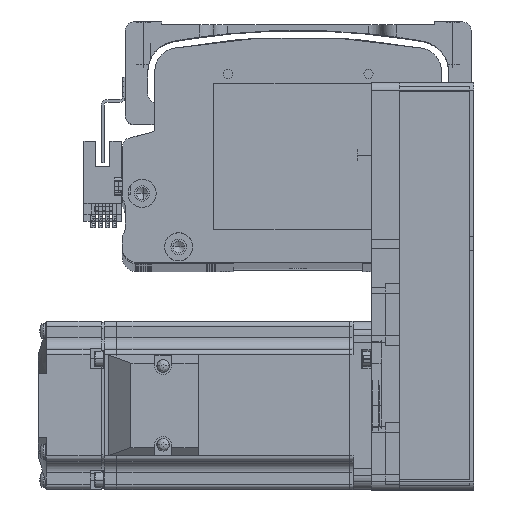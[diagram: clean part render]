
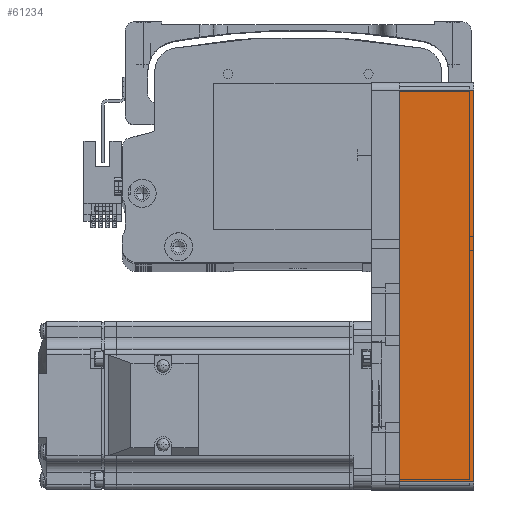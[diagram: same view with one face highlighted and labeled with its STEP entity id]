
A CAD part, top view. The second image highlights one B-rep face of the part: STEP entity #61234.
In plain terms, the highlighted planar face has unit normal (0, 0, 1) as drawn and (0, -1, 0) by its records, which use the part's own axes.
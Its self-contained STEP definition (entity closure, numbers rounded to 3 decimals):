
#3457 = LINE ( 'NONE', #74058, #71544 ) ;
#8334 = ORIENTED_EDGE ( 'NONE', *, *, #68218, .F. ) ;
#11028 = AXIS2_PLACEMENT_3D ( 'NONE', #23783, #71364, #30660 ) ;
#13111 = VERTEX_POINT ( 'NONE', #15380 ) ;
#15380 = CARTESIAN_POINT ( 'NONE',  ( -69.5, -30., 26.5 ) ) ;
#17756 = EDGE_CURVE ( 'NONE', #30488, #26718, #58027, .T. ) ;
#22128 = CARTESIAN_POINT ( 'NONE',  ( 69.5, -30., 26.5 ) ) ;
#22796 = VECTOR ( 'NONE', #74936, 1000. ) ;
#23783 = CARTESIAN_POINT ( 'NONE',  ( 72.5, -30., 26.5 ) ) ;
#25732 = CARTESIAN_POINT ( 'NONE',  ( 69.5, -30., 26.5 ) ) ;
#26718 = VERTEX_POINT ( 'NONE', #25732 ) ;
#27659 = VERTEX_POINT ( 'NONE', #80273 ) ;
#30488 = VERTEX_POINT ( 'NONE', #88091 ) ;
#30660 = DIRECTION ( 'NONE',  ( -1., 0., 0. ) ) ;
#33353 = DIRECTION ( 'NONE',  ( 1., 0., 0. ) ) ;
#39379 = FACE_OUTER_BOUND ( 'NONE', #59045, .T. ) ;
#39473 = VECTOR ( 'NONE', #57391, 1000. ) ;
#39870 = VECTOR ( 'NONE', #56136, 1000. ) ;
#41071 = CARTESIAN_POINT ( 'NONE',  ( -69.5, -30., 26.5 ) ) ;
#42324 = EDGE_CURVE ( 'NONE', #13111, #27659, #61191, .T. ) ;
#50582 = CARTESIAN_POINT ( 'NONE',  ( 72.5, -30., 26.5 ) ) ;
#51248 = EDGE_CURVE ( 'NONE', #27659, #30488, #3457, .T. ) ;
#56136 = DIRECTION ( 'NONE',  ( 0., 0., 1. ) ) ;
#57391 = DIRECTION ( 'NONE',  ( 1., 0., 0. ) ) ;
#57478 = PLANE ( 'NONE',  #11028 ) ;
#57728 = ORIENTED_EDGE ( 'NONE', *, *, #42324, .T. ) ;
#58027 = LINE ( 'NONE', #22128, #39870 ) ;
#59045 = EDGE_LOOP ( 'NONE', ( #68565, #60712, #8334, #57728 ) ) ;
#59775 = LINE ( 'NONE', #50582, #39473 ) ;
#60712 = ORIENTED_EDGE ( 'NONE', *, *, #17756, .T. ) ;
#61191 = LINE ( 'NONE', #41071, #22796 ) ;
#61234 = ADVANCED_FACE ( 'NONE', ( #39379 ), #57478, .F. ) ;
#68218 = EDGE_CURVE ( 'NONE', #13111, #26718, #59775, .T. ) ;
#68565 = ORIENTED_EDGE ( 'NONE', *, *, #51248, .T. ) ;
#71364 = DIRECTION ( 'NONE',  ( 0., 1., 0. ) ) ;
#71544 = VECTOR ( 'NONE', #33353, 1000. ) ;
#74058 = CARTESIAN_POINT ( 'NONE',  ( 72.5, -30., 0. ) ) ;
#74936 = DIRECTION ( 'NONE',  ( 0., 0., -1. ) ) ;
#80273 = CARTESIAN_POINT ( 'NONE',  ( -69.5, -30., 0. ) ) ;
#88091 = CARTESIAN_POINT ( 'NONE',  ( 69.5, -30., 0. ) ) ;
